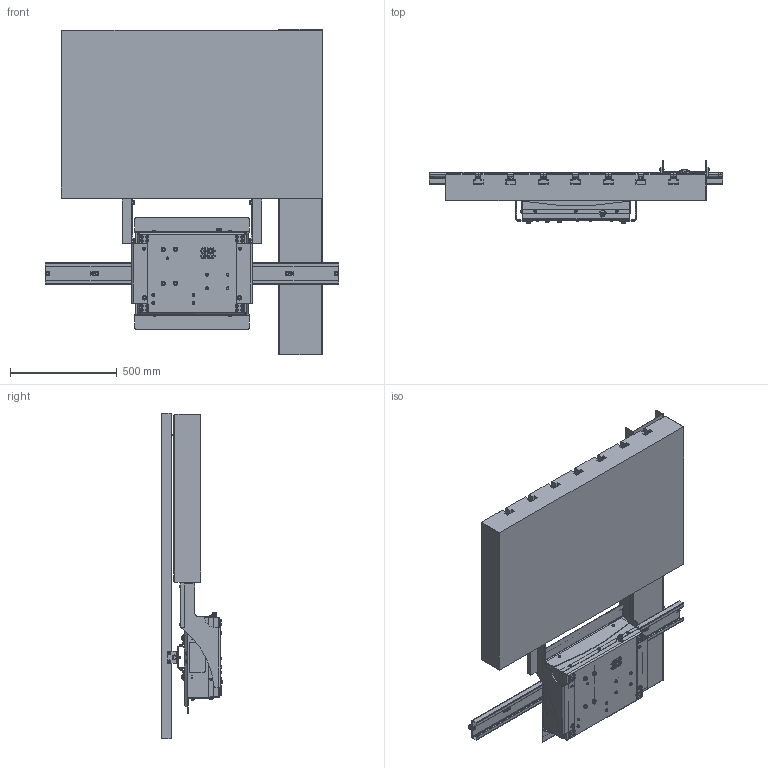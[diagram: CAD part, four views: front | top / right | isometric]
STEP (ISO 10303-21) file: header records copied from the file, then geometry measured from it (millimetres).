
FILE_DESCRIPTION (( 'STEP AP203' ), '1' );
FILE_NAME ('EGD-125-6001-1 DIE SECTION.STEP', '2018-08-27T13:51:12', ( 'paxadmin' ), ( 'Microsoft' ), 'SwSTEP 2.0', 'SolidWorks 2016', '' );
FILE_SCHEMA (( 'CONFIG_CONTROL_DESIGN' ));
Length unit declared in the file: inch
Products named in the file (1): EGD-125-6001-1 DIE SECTION
Bounding box: 1371.6 x 289 x 1524 mm (x, y, z)
Surface area: 6604889.8 mm2 (no closed solid volume)
Topology: 0 solids, 254 shells, 1568 faces, 5352 edges, 3925 vertices
Faces by surface type: plane 938, cylinder 308, torus 174, cone 121, bspline 19, sphere 8
Entity records: 63250 total; most frequent: CARTESIAN_POINT 17119, DIRECTION 9964, ORIENTED_EDGE 7941, EDGE_CURVE 5352, VERTEX_POINT 3925, AXIS2_PLACEMENT_3D 3791, VECTOR 2382, LINE 2382
